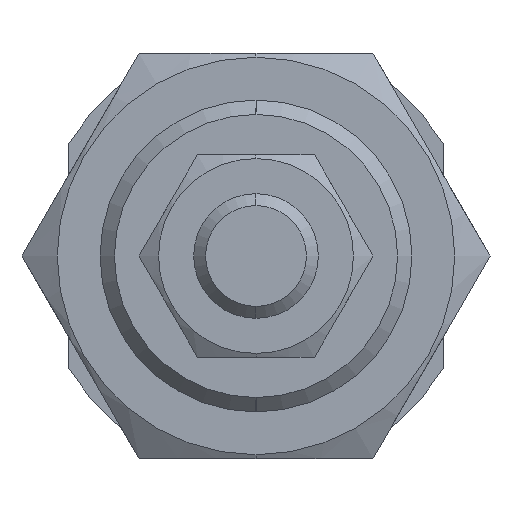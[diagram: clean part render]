
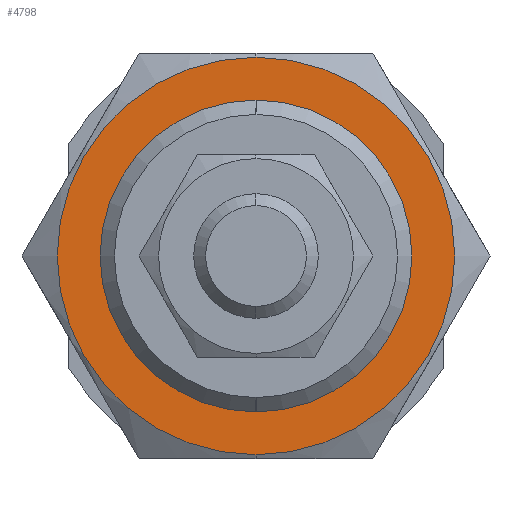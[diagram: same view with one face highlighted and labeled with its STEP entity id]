
A CAD part, left-side view. The second image highlights one B-rep face of the part: STEP entity #4798.
In plain terms, the highlighted planar face has unit normal (-1, 0, 0).
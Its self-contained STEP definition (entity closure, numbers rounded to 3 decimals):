
#60 = CARTESIAN_POINT ( 'NONE',  ( -11., 0., -10. ) ) ;
#105 = DIRECTION ( 'NONE',  ( 1., 0., 0. ) ) ;
#163 = CARTESIAN_POINT ( 'NONE',  ( -11., 0., 0. ) ) ;
#378 = EDGE_LOOP ( 'NONE', ( #5161, #3547 ) ) ;
#607 = VERTEX_POINT ( 'NONE', #1826 ) ;
#1003 = DIRECTION ( 'NONE',  ( 0., 1., 0. ) ) ;
#1017 = ORIENTED_EDGE ( 'NONE', *, *, #3876, .F. ) ;
#1030 = CARTESIAN_POINT ( 'NONE',  ( -11., 0., -12.75 ) ) ;
#1129 = CARTESIAN_POINT ( 'NONE',  ( -11., 0., 12.75 ) ) ;
#1348 = VERTEX_POINT ( 'NONE', #60 ) ;
#1375 = CIRCLE ( 'NONE', #3397, 10. ) ;
#1460 = CARTESIAN_POINT ( 'NONE',  ( -11., 0., 0. ) ) ;
#1681 = CARTESIAN_POINT ( 'NONE',  ( -11., 0., 0. ) ) ;
#1769 = DIRECTION ( 'NONE',  ( 0., 0., -1. ) ) ;
#1826 = CARTESIAN_POINT ( 'NONE',  ( -11., 0., 10. ) ) ;
#1919 = EDGE_CURVE ( 'NONE', #4787, #4880, #3380, .T. ) ;
#2134 = CIRCLE ( 'NONE', #4012, 12.75 ) ;
#2170 = AXIS2_PLACEMENT_3D ( 'NONE', #3949, #4129, #3079 ) ;
#2635 = DIRECTION ( 'NONE',  ( 1., 0., 0. ) ) ;
#2734 = EDGE_LOOP ( 'NONE', ( #3240, #1017 ) ) ;
#3079 = DIRECTION ( 'NONE',  ( 0., 0., -1. ) ) ;
#3240 = ORIENTED_EDGE ( 'NONE', *, *, #1919, .F. ) ;
#3369 = DIRECTION ( 'NONE',  ( 1., 0., 0. ) ) ;
#3380 = CIRCLE ( 'NONE', #5069, 12.75 ) ;
#3397 = AXIS2_PLACEMENT_3D ( 'NONE', #1460, #4850, #3619 ) ;
#3547 = ORIENTED_EDGE ( 'NONE', *, *, #4502, .T. ) ;
#3580 = EDGE_CURVE ( 'NONE', #607, #1348, #1375, .T. ) ;
#3601 = CIRCLE ( 'NONE', #2170, 10. ) ;
#3619 = DIRECTION ( 'NONE',  ( 0., 0., -1. ) ) ;
#3876 = EDGE_CURVE ( 'NONE', #4880, #4787, #2134, .T. ) ;
#3878 = FACE_BOUND ( 'NONE', #378, .T. ) ;
#3936 = FACE_OUTER_BOUND ( 'NONE', #2734, .T. ) ;
#3949 = CARTESIAN_POINT ( 'NONE',  ( -11., 0., 0. ) ) ;
#4012 = AXIS2_PLACEMENT_3D ( 'NONE', #5141, #2635, #1769 ) ;
#4129 = DIRECTION ( 'NONE',  ( 1., 0., 0. ) ) ;
#4359 = AXIS2_PLACEMENT_3D ( 'NONE', #163, #105, #1003 ) ;
#4502 = EDGE_CURVE ( 'NONE', #1348, #607, #3601, .T. ) ;
#4787 = VERTEX_POINT ( 'NONE', #1030 ) ;
#4798 = ADVANCED_FACE ( 'NONE', ( #3936, #3878 ), #5238, .F. ) ;
#4850 = DIRECTION ( 'NONE',  ( 1., 0., 0. ) ) ;
#4880 = VERTEX_POINT ( 'NONE', #1129 ) ;
#5069 = AXIS2_PLACEMENT_3D ( 'NONE', #1681, #3369, #5126 ) ;
#5126 = DIRECTION ( 'NONE',  ( 0., 0., -1. ) ) ;
#5141 = CARTESIAN_POINT ( 'NONE',  ( -11., 0., 0. ) ) ;
#5161 = ORIENTED_EDGE ( 'NONE', *, *, #3580, .T. ) ;
#5238 = PLANE ( 'NONE',  #4359 ) ;
